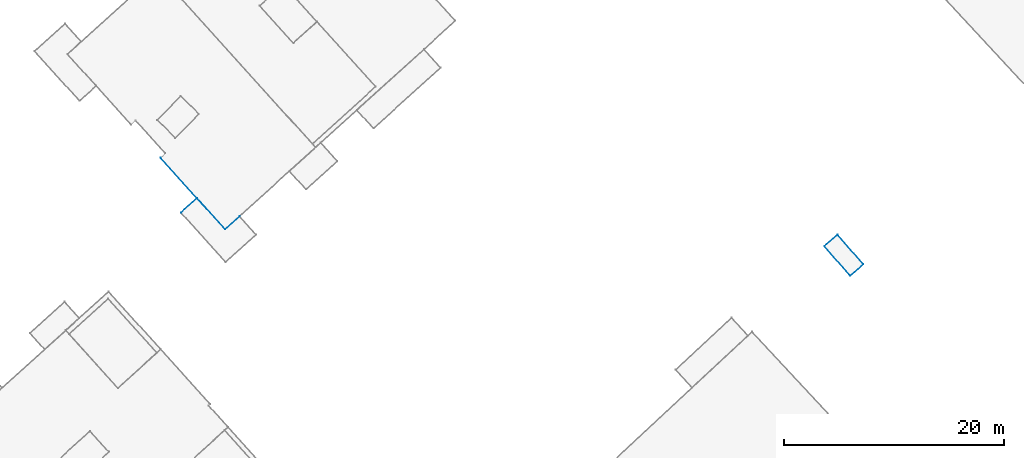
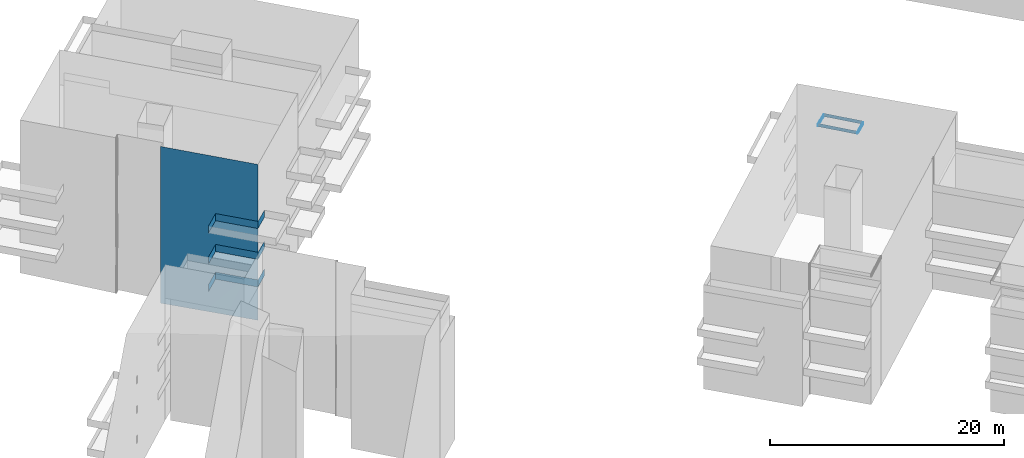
# Not in any storey, part 27 of 136: 27 walls.
"""IFC4 building model written with IfcOpenShell, lengths in metres."""

from ifc_helpers import new_model, entity, si_unit, converted_unit, frame, origin, place, context, subcontext, project, spatial, face_set, surface_model, element, save


model = new_model("IFC4")

# Units and contexts
model_context = context("Model", 3, precision=1e-05, world=origin())
body_context = subcontext(model_context, "Body", "Model", "MODEL_VIEW")
ifc_project = project(units=[converted_unit("PLANEANGLEUNIT", "DEGREE", entity("IfcRatioMeasure", 0.0174532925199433), si_unit("PLANEANGLEUNIT", "RADIAN"), dimensions=[0, 0, 0, 0, 0, 0, 0]), si_unit("AREAUNIT", "SQUARE_METRE"), si_unit("LENGTHUNIT", "METRE")], contexts=[model_context])

# Site, building
site_placement = place(None, origin())
site = spatial("IfcSite", under=ifc_project, at=site_placement, Name="_site")
building_1_placement = place(site_placement, origin())
building_1 = spatial("IfcBuilding", under=site, at=building_1_placement, Name="_building")

# Walls
wall_1_placement = place(building_1_placement, origin())
element("IfcWall", 1, at=wall_1_placement, inside=building_1, Name="Wall", PredefinedType="NOTDEFINED", context=body_context, shape_type="SurfaceModel", body=[
    surface_model("IfcFaceBasedSurfaceModel", [(131.34, 22.8, 40.58), (132.53, 23.84, 40.58), (132.53, 23.84, 40.23), (131.34, 22.8, 40.23)], [face_set([[[0, 1, 2, 3]]])]),
])
for number, where, name in (
    (2, (0.0, 0.0, 0.0), "Wall"),
    (3, (0.0, 0.0, 0.0), "Wall"),
):
    element("IfcWall", number, at=place(building_1_placement, frame(where)), inside=building_1, Name=name, PredefinedType="NOTDEFINED", context=body_context, shape_type="SurfaceModel", body=[
        surface_model("IfcFaceBasedSurfaceModel", [(133.68, 20.11, 40.58), (131.34, 22.8, 40.58), (131.34, 22.8, 40.23), (133.68, 20.11, 40.23)], [face_set([[[0, 1, 2, 3]]])]),
    ])
wall_2_placement = place(building_1_placement, origin())
element("IfcWall", 4, at=wall_2_placement, inside=building_1, Name="Wall", PredefinedType="NOTDEFINED", context=body_context, shape_type="SurfaceModel", body=[
    surface_model("IfcFaceBasedSurfaceModel", [(131.34, 22.8, 40.58), (132.53, 23.84, 40.58), (132.53, 23.84, 40.23), (131.34, 22.8, 40.23)], [face_set([[[0, 1, 2, 3]]])]),
])
wall_3_placement = place(building_1_placement, origin())
element("IfcWall", 5, at=wall_3_placement, inside=building_1, Name="Wall", PredefinedType="NOTDEFINED", context=body_context, shape_type="SurfaceModel", body=[
    surface_model("IfcFaceBasedSurfaceModel", [(134.87, 21.15, 40.58), (133.68, 20.11, 40.58), (133.68, 20.11, 40.23), (134.87, 21.15, 40.23)], [face_set([[[0, 1, 2, 3]]])]),
])
for number, where, name in (
    (6, (0.0, 0.0, 0.0), "Wall"),
    (7, (0.0, 0.0, 0.0), "Wall"),
):
    element("IfcWall", number, at=place(building_1_placement, frame(where)), inside=building_1, Name=name, PredefinedType="NOTDEFINED", context=body_context, shape_type="SurfaceModel", body=[
        surface_model("IfcFaceBasedSurfaceModel", [(132.53, 23.84, 40.58), (134.87, 21.15, 40.58), (134.87, 21.15, 40.23), (132.53, 23.84, 40.23)], [face_set([[[0, 1, 2, 3]]])]),
    ])
wall_4_placement = place(building_1_placement, origin())
element("IfcWall", 8, at=wall_4_placement, inside=building_1, Name="Wall", PredefinedType="NOTDEFINED", context=body_context, shape_type="SurfaceModel", body=[
    surface_model("IfcFaceBasedSurfaceModel", [(134.87, 21.15, 40.58), (133.68, 20.11, 40.58), (133.68, 20.11, 40.23), (134.87, 21.15, 40.23)], [face_set([[[0, 1, 2, 3]]])]),
])

# Building
building_2_placement = place(site_placement, origin())
building_2 = spatial("IfcBuilding", under=site, at=building_2_placement, Name="_building")

# Walls
wall_5_placement = place(building_2_placement, origin())
element("IfcWall", 9, at=wall_5_placement, inside=building_2, Name="Wall", PredefinedType="NOTDEFINED", context=body_context, shape_type="SurfaceModel", body=[
    surface_model("IfcFaceBasedSurfaceModel", [(76.98, 24.33, 44.48), (78.28, 25.5, 44.48), (78.28, 25.5, 45.23), (76.98, 24.33, 45.23)], [face_set([[[0, 1, 2, 3]]])]),
])
wall_6_placement = place(building_2_placement, origin())
element("IfcWall", 10, at=wall_6_placement, inside=building_2, Name="Wall", PredefinedType="NOTDEFINED", context=body_context, shape_type="SurfaceModel", body=[
    surface_model("IfcFaceBasedSurfaceModel", [(74.42, 27.16, 44.48), (76.98, 24.33, 44.48), (76.98, 24.33, 45.23), (74.42, 27.16, 45.23)], [face_set([[[0, 1, 2, 3]]])]),
])
wall_7_placement = place(building_2_placement, origin())
element("IfcWall", 11, at=wall_7_placement, inside=building_2, Name="Wall", PredefinedType="NOTDEFINED", context=body_context, shape_type="SurfaceModel", body=[
    surface_model("IfcFaceBasedSurfaceModel", [(72.97, 25.851, 44.48), (74.42, 27.16, 44.48), (74.42, 27.16, 45.23), (72.97, 25.851, 45.23)], [face_set([[[0, 1, 2, 3]]])]),
])
wall_8_placement = place(building_2_placement, origin())
element("IfcWall", 12, at=wall_8_placement, inside=building_2, Name="Wall", PredefinedType="NOTDEFINED", context=body_context, shape_type="SurfaceModel", body=[
    surface_model("IfcFaceBasedSurfaceModel", [(76.98, 24.33, 44.48), (78.28, 25.5, 44.48), (78.28, 25.5, 45.23), (76.98, 24.33, 45.23)], [face_set([[[0, 1, 2, 3]]])]),
])
wall_9_placement = place(building_2_placement, origin())
element("IfcWall", 13, at=wall_9_placement, inside=building_2, Name="Wall", PredefinedType="NOTDEFINED", context=body_context, shape_type="SurfaceModel", body=[
    surface_model("IfcFaceBasedSurfaceModel", [(74.42, 27.16, 44.48), (76.98, 24.33, 44.48), (76.98, 24.33, 45.23), (74.42, 27.16, 45.23)], [face_set([[[0, 1, 2, 3]]])]),
])
wall_10_placement = place(building_2_placement, origin())
element("IfcWall", 14, at=wall_10_placement, inside=building_2, Name="Wall", PredefinedType="NOTDEFINED", context=body_context, shape_type="SurfaceModel", body=[
    surface_model("IfcFaceBasedSurfaceModel", [(72.97, 25.851, 44.48), (74.42, 27.16, 44.48), (74.42, 27.16, 45.23), (72.97, 25.851, 45.23)], [face_set([[[0, 1, 2, 3]]])]),
])
wall_11_placement = place(building_2_placement, origin())
element("IfcWall", 15, at=wall_11_placement, inside=building_2, Name="Wall", PredefinedType="NOTDEFINED", context=body_context, shape_type="SurfaceModel", body=[
    surface_model("IfcFaceBasedSurfaceModel", [(76.98, 24.33, 47.7), (78.28, 25.5, 47.7), (78.28, 25.5, 48.45), (76.98, 24.33, 48.45)], [face_set([[[0, 1, 2, 3]]])]),
])
wall_12_placement = place(building_2_placement, origin())
element("IfcWall", 16, at=wall_12_placement, inside=building_2, Name="Wall", PredefinedType="NOTDEFINED", context=body_context, shape_type="SurfaceModel", body=[
    surface_model("IfcFaceBasedSurfaceModel", [(74.42, 27.16, 47.7), (76.98, 24.33, 47.7), (76.98, 24.33, 48.45), (74.42, 27.16, 48.45)], [face_set([[[0, 1, 2, 3]]])]),
])
wall_13_placement = place(building_2_placement, origin())
element("IfcWall", 17, at=wall_13_placement, inside=building_2, Name="Wall", PredefinedType="NOTDEFINED", context=body_context, shape_type="SurfaceModel", body=[
    surface_model("IfcFaceBasedSurfaceModel", [(72.97, 25.851, 47.7), (74.42, 27.16, 47.7), (74.42, 27.16, 48.45), (72.97, 25.851, 48.45)], [face_set([[[0, 1, 2, 3]]])]),
])
wall_14_placement = place(building_2_placement, origin())
element("IfcWall", 18, at=wall_14_placement, inside=building_2, Name="Wall", PredefinedType="NOTDEFINED", context=body_context, shape_type="SurfaceModel", body=[
    surface_model("IfcFaceBasedSurfaceModel", [(76.98, 24.33, 47.7), (78.28, 25.5, 47.7), (78.28, 25.5, 48.45), (76.98, 24.33, 48.45)], [face_set([[[0, 1, 2, 3]]])]),
])
wall_15_placement = place(building_2_placement, origin())
element("IfcWall", 19, at=wall_15_placement, inside=building_2, Name="Wall", PredefinedType="NOTDEFINED", context=body_context, shape_type="SurfaceModel", body=[
    surface_model("IfcFaceBasedSurfaceModel", [(74.42, 27.16, 47.7), (76.98, 24.33, 47.7), (76.98, 24.33, 48.45), (74.42, 27.16, 48.45)], [face_set([[[0, 1, 2, 3]]])]),
])
wall_16_placement = place(building_2_placement, origin())
element("IfcWall", 20, at=wall_16_placement, inside=building_2, Name="Wall", PredefinedType="NOTDEFINED", context=body_context, shape_type="SurfaceModel", body=[
    surface_model("IfcFaceBasedSurfaceModel", [(72.97, 25.851, 47.7), (74.42, 27.16, 47.7), (74.42, 27.16, 48.45), (72.97, 25.851, 48.45)], [face_set([[[0, 1, 2, 3]]])]),
])
wall_17_placement = place(building_2_placement, origin())
element("IfcWall", 21, at=wall_17_placement, inside=building_2, Name="Wall", PredefinedType="NOTDEFINED", context=body_context, shape_type="SurfaceModel", body=[
    surface_model("IfcFaceBasedSurfaceModel", [(76.98, 24.33, 54.39), (71.11, 30.82, 54.39), (71.11, 30.82, 38.037), (76.98, 24.33, 38.13)], [face_set([[[0, 1, 2, 3]]])]),
])
wall_18_placement = place(building_2_placement, origin())
element("IfcWall", 22, at=wall_18_placement, inside=building_2, Name="Wall", PredefinedType="NOTDEFINED", context=body_context, shape_type="SurfaceModel", body=[
    surface_model("IfcFaceBasedSurfaceModel", [(76.98, 24.33, 41.6), (78.28, 25.5, 41.6), (78.28, 25.5, 42.35), (76.98, 24.33, 42.35)], [face_set([[[0, 1, 2, 3]]])]),
])
wall_19_placement = place(building_2_placement, origin())
element("IfcWall", 23, at=wall_19_placement, inside=building_2, Name="Wall", PredefinedType="NOTDEFINED", context=body_context, shape_type="SurfaceModel", body=[
    surface_model("IfcFaceBasedSurfaceModel", [(74.42, 27.16, 41.6), (76.98, 24.33, 41.6), (76.98, 24.33, 42.35), (74.42, 27.16, 42.35)], [face_set([[[0, 1, 2, 3]]])]),
])
wall_20_placement = place(building_2_placement, origin())
element("IfcWall", 24, at=wall_20_placement, inside=building_2, Name="Wall", PredefinedType="NOTDEFINED", context=body_context, shape_type="SurfaceModel", body=[
    surface_model("IfcFaceBasedSurfaceModel", [(72.97, 25.851, 41.6), (74.42, 27.16, 41.6), (74.42, 27.16, 42.35), (72.97, 25.851, 42.35)], [face_set([[[0, 1, 2, 3]]])]),
])
wall_21_placement = place(building_2_placement, origin())
element("IfcWall", 25, at=wall_21_placement, inside=building_2, Name="Wall", PredefinedType="NOTDEFINED", context=body_context, shape_type="SurfaceModel", body=[
    surface_model("IfcFaceBasedSurfaceModel", [(76.98, 24.33, 41.6), (78.28, 25.5, 41.6), (78.28, 25.5, 42.35), (76.98, 24.33, 42.35)], [face_set([[[0, 1, 2, 3]]])]),
])
wall_22_placement = place(building_2_placement, origin())
element("IfcWall", 26, at=wall_22_placement, inside=building_2, Name="Wall", PredefinedType="NOTDEFINED", context=body_context, shape_type="SurfaceModel", body=[
    surface_model("IfcFaceBasedSurfaceModel", [(74.42, 27.16, 41.6), (76.98, 24.33, 41.6), (76.98, 24.33, 42.35), (74.42, 27.16, 42.35)], [face_set([[[0, 1, 2, 3]]])]),
])
wall_23_placement = place(building_2_placement, origin())
element("IfcWall", 27, at=wall_23_placement, inside=building_2, Name="Wall", PredefinedType="NOTDEFINED", context=body_context, shape_type="SurfaceModel", body=[
    surface_model("IfcFaceBasedSurfaceModel", [(72.97, 25.851, 41.6), (74.42, 27.16, 41.6), (74.42, 27.16, 42.35), (72.97, 25.851, 42.35)], [face_set([[[0, 1, 2, 3]]])]),
])

save(model, "model.ifc")
